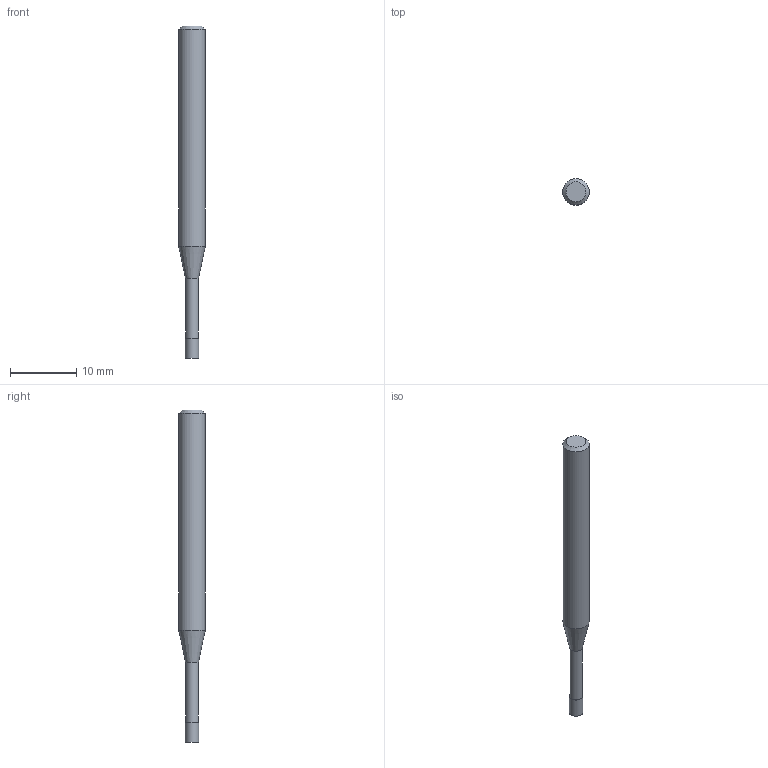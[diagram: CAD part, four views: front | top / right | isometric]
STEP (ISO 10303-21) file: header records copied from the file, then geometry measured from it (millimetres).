
FILE_DESCRIPTION((''),'2;1');
FILE_NAME('C:\Users\nsx150\AppData\Local\Temp\Mastercam 2021\17T8Q8S9EB\TEMP.step','2021-04-21T14:27:40',(''),(''),'STEP Write','Mastercam 2021 ... CNC Software, Inc.','');
FILE_SCHEMA(('AUTOMOTIVE_DESIGN'));
Length unit declared in the file: millimetre
Products named in the file (1): None
Bounding box: 4 x 4 x 50 mm (x, y, z)
Volume: 486.1 mm3; surface area: 554.4 mm2
Topology: 2 solids, 2 shells, 9 faces, 12 edges, 7 vertices
Faces by surface type: plane 4, cylinder 3, cone 2
Full cylindrical faces by diameter (mm): 1.94 x1, 2 x1, 4 x1
Entity records: 211 total; most frequent: DIRECTION 36, CARTESIAN_POINT 25, AXIS2_PLACEMENT_3D 18, ORIENTED_EDGE 14, EDGE_LOOP 14, STYLED_ITEM 12, ADVANCED_FACE 9, FACE_BOUND 8
